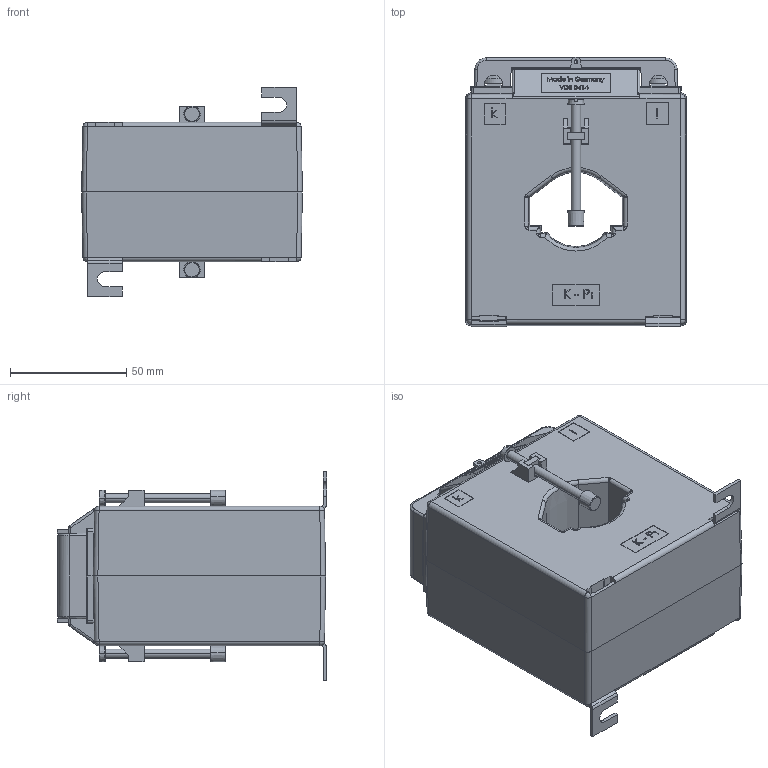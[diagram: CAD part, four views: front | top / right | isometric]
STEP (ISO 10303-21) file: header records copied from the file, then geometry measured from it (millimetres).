
FILE_DESCRIPTION (( 'STEP AP214' ), '1' );
FILE_NAME ('EASK41.6_kpl.STEP', '2011-11-29T11:04:11', ( ' ' ), ( '' ), 'SwSTEP 2.0', 'SolidWorks 2010', '' );
FILE_SCHEMA (( 'AUTOMOTIVE_DESIGN' ));
Length unit declared in the file: millimetre
Products named in the file (9): Zylinderschraube DIN 84 4.8 VG M 4 x 50; Vierkantmutter_M4; Isolierschutzkappe; Fusswinkel_1,5; Plombierabdeckung_ASK31_6_01; EASK41.6_kpl; Linsenschraube DIN 7985 4.8 VZ M 5 x 10; MBS_WN-003_04_Klemme_WN-003_02; ASK41.6_11
Assembly tree (17 placements, depth 2):
  EASK41.6_kpl
    Fusswinkel_1,5  x2
    Linsenschraube DIN 7985 4.8 VZ M 5 x 10  x4
    Vierkantmutter_M4  x2
    ASK41.6_11  x2
    Plombierabdeckung_ASK31_6_01
    Zylinderschraube DIN 84 4.8 VG M 4 x 50  x2
    MBS_WN-003_04_Klemme_WN-003_02  x2
    Isolierschutzkappe  x2
Bounding box: 95 x 116 x 90 mm (x, y, z)
Volume: 539086.6 mm3; surface area: 90724.8 mm2
Topology: 19 solids, 19 shells, 1544 faces, 3989 edges, 2552 vertices
Faces by surface type: plane 974, bspline 270, cylinder 195, torus 36, cone 35, sphere 34
Entity records: 30787 total; most frequent: CARTESIAN_POINT 11828, ORIENTED_EDGE 4150, DIRECTION 3285, EDGE_CURVE 2075, LINE 1467, VECTOR 1467, VERTEX_POINT 1345, AXIS2_PLACEMENT_3D 909
